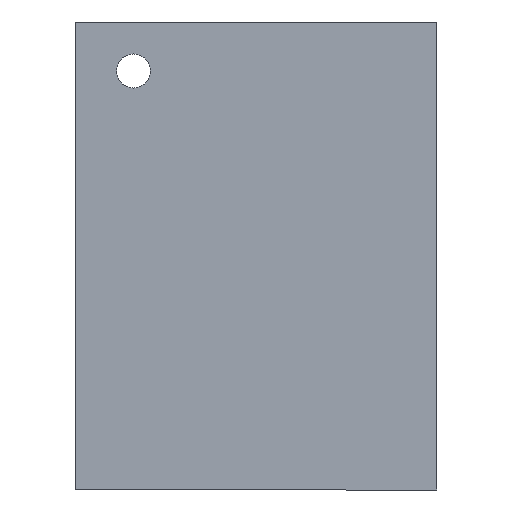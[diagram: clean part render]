
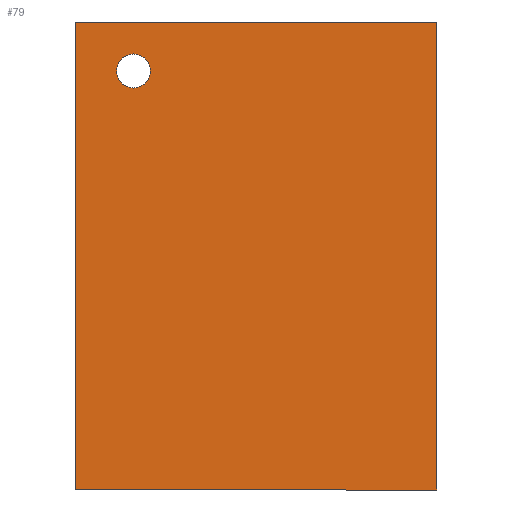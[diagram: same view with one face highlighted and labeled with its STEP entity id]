
A CAD part, front view. The second image highlights one B-rep face of the part: STEP entity #79.
In plain terms, the highlighted planar face has unit normal (0, -1, 0).
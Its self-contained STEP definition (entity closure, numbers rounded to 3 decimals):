
#22 = LINE ( 'NONE', #620, #634 ) ;
#49 = VERTEX_POINT ( 'NONE', #412 ) ;
#61 = VERTEX_POINT ( 'NONE', #1509 ) ;
#79 = ADVANCED_FACE ( 'NONE', ( #1947, #1955 ), #243, .T. ) ;
#93 = ORIENTED_EDGE ( 'NONE', *, *, #447, .F. ) ;
#101 = AXIS2_PLACEMENT_3D ( 'NONE', #628, #1566, #1243 ) ;
#124 = CARTESIAN_POINT ( 'NONE',  ( 0., 0., 0. ) ) ;
#167 = CARTESIAN_POINT ( 'NONE',  ( 67.45, 0., -87.325 ) ) ;
#179 = DIRECTION ( 'NONE',  ( 0., 0., -1. ) ) ;
#243 = PLANE ( 'NONE',  #1119 ) ;
#262 = VECTOR ( 'NONE', #670, 1000. ) ;
#270 = CARTESIAN_POINT ( 'NONE',  ( -67.45, 0., -87.325 ) ) ;
#276 = DIRECTION ( 'NONE',  ( 0., -1., 0. ) ) ;
#286 = CARTESIAN_POINT ( 'NONE',  ( -45.72, 0., 62.687 ) ) ;
#322 = ORIENTED_EDGE ( 'NONE', *, *, #1519, .F. ) ;
#412 = CARTESIAN_POINT ( 'NONE',  ( -67.45, 0., 87.325 ) ) ;
#447 = EDGE_CURVE ( 'NONE', #61, #1114, #947, .T. ) ;
#620 = CARTESIAN_POINT ( 'NONE',  ( -67.45, 0., -87.325 ) ) ;
#628 = CARTESIAN_POINT ( 'NONE',  ( -45.72, 0., 69.037 ) ) ;
#634 = VECTOR ( 'NONE', #1680, 1000. ) ;
#670 = DIRECTION ( 'NONE',  ( -1., 0., 0. ) ) ;
#736 = DIRECTION ( 'NONE',  ( 0., 0., -1. ) ) ;
#813 = EDGE_CURVE ( 'NONE', #1850, #1850, #866, .T. ) ;
#850 = LINE ( 'NONE', #1151, #1384 ) ;
#866 = CIRCLE ( 'NONE', #101, 6.35 ) ;
#947 = LINE ( 'NONE', #1378, #1837 ) ;
#979 = ORIENTED_EDGE ( 'NONE', *, *, #1086, .F. ) ;
#1001 = VERTEX_POINT ( 'NONE', #270 ) ;
#1086 = EDGE_CURVE ( 'NONE', #1001, #49, #22, .T. ) ;
#1114 = VERTEX_POINT ( 'NONE', #167 ) ;
#1119 = AXIS2_PLACEMENT_3D ( 'NONE', #124, #276, #736 ) ;
#1151 = CARTESIAN_POINT ( 'NONE',  ( 67.45, 0., 87.325 ) ) ;
#1243 = DIRECTION ( 'NONE',  ( 0., 0., -1. ) ) ;
#1278 = ORIENTED_EDGE ( 'NONE', *, *, #1398, .F. ) ;
#1378 = CARTESIAN_POINT ( 'NONE',  ( 67.45, 0., -87.325 ) ) ;
#1384 = VECTOR ( 'NONE', #1468, 1000. ) ;
#1398 = EDGE_CURVE ( 'NONE', #1114, #1001, #1720, .T. ) ;
#1454 = ORIENTED_EDGE ( 'NONE', *, *, #813, .F. ) ;
#1468 = DIRECTION ( 'NONE',  ( 1., 0., 0. ) ) ;
#1509 = CARTESIAN_POINT ( 'NONE',  ( 67.45, 0., 87.325 ) ) ;
#1519 = EDGE_CURVE ( 'NONE', #49, #61, #850, .T. ) ;
#1566 = DIRECTION ( 'NONE',  ( 0., -1., 0. ) ) ;
#1576 = EDGE_LOOP ( 'NONE', ( #979, #1278, #93, #322 ) ) ;
#1680 = DIRECTION ( 'NONE',  ( 0., 0., 1. ) ) ;
#1720 = LINE ( 'NONE', #1886, #262 ) ;
#1837 = VECTOR ( 'NONE', #179, 1000. ) ;
#1850 = VERTEX_POINT ( 'NONE', #286 ) ;
#1886 = CARTESIAN_POINT ( 'NONE',  ( 67.45, 0., -87.325 ) ) ;
#1897 = EDGE_LOOP ( 'NONE', ( #1454 ) ) ;
#1947 = FACE_BOUND ( 'NONE', #1897, .T. ) ;
#1955 = FACE_OUTER_BOUND ( 'NONE', #1576, .T. ) ;
